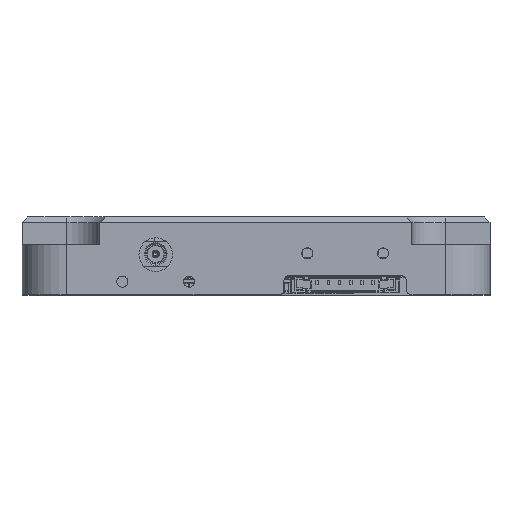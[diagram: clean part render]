
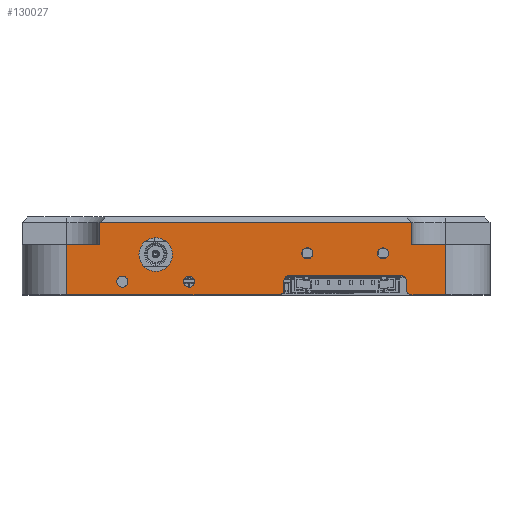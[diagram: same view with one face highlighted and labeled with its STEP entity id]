
A CAD part, front view. The second image highlights one B-rep face of the part: STEP entity #130027.
In plain terms, the highlighted planar face has unit normal (0, -1, 0) as drawn and (0, 0, 1) by its records, which use the part's own axes.
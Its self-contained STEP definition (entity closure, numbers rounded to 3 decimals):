
#13246=LINE('',#193041,#25460);
#13271=LINE('',#193101,#25485);
#13272=LINE('',#193117,#25486);
#13273=LINE('',#193120,#25487);
#13274=LINE('',#193122,#25488);
#13275=LINE('',#193124,#25489);
#13276=LINE('',#193125,#25490);
#13277=LINE('',#193126,#25491);
#13278=LINE('',#193127,#25492);
#13279=LINE('',#193128,#25493);
#13280=LINE('',#193129,#25494);
#13281=LINE('',#193130,#25495);
#25460=VECTOR('',#161294,1000.);
#25485=VECTOR('',#161341,1000.);
#25486=VECTOR('',#161358,1000.);
#25487=VECTOR('',#161359,1000.);
#25488=VECTOR('',#161360,1000.);
#25489=VECTOR('',#161361,1000.);
#25490=VECTOR('',#161362,1000.);
#25491=VECTOR('',#161363,1000.);
#25492=VECTOR('',#161364,1000.);
#25493=VECTOR('',#161365,1000.);
#25494=VECTOR('',#161366,1000.);
#25495=VECTOR('',#161367,1000.);
#52896=ORIENTED_EDGE('',*,*,#67355,.F.);
#52897=ORIENTED_EDGE('',*,*,#67356,.F.);
#52898=ORIENTED_EDGE('',*,*,#67357,.F.);
#52899=ORIENTED_EDGE('',*,*,#67358,.F.);
#52900=ORIENTED_EDGE('',*,*,#67359,.F.);
#52901=ORIENTED_EDGE('',*,*,#67360,.T.);
#52902=ORIENTED_EDGE('',*,*,#67361,.T.);
#52903=ORIENTED_EDGE('',*,*,#67362,.F.);
#52904=ORIENTED_EDGE('',*,*,#67363,.F.);
#52905=ORIENTED_EDGE('',*,*,#67352,.T.);
#52906=ORIENTED_EDGE('',*,*,#67364,.T.);
#52907=ORIENTED_EDGE('',*,*,#67320,.T.);
#52908=ORIENTED_EDGE('',*,*,#67365,.F.);
#52909=ORIENTED_EDGE('',*,*,#67310,.F.);
#52910=ORIENTED_EDGE('',*,*,#67366,.F.);
#52911=ORIENTED_EDGE('',*,*,#67308,.F.);
#52912=ORIENTED_EDGE('',*,*,#67367,.T.);
#52913=ORIENTED_EDGE('',*,*,#67314,.T.);
#52914=ORIENTED_EDGE('',*,*,#67368,.T.);
#52915=ORIENTED_EDGE('',*,*,#67322,.F.);
#52916=ORIENTED_EDGE('',*,*,#67369,.F.);
#67308=EDGE_CURVE('',#76565,#76563,#78366,.F.);
#67310=EDGE_CURVE('',#76566,#76568,#78367,.F.);
#67314=EDGE_CURVE('',#76572,#76570,#78369,.F.);
#67320=EDGE_CURVE('',#76575,#76577,#78372,.F.);
#67322=EDGE_CURVE('',#76578,#76580,#13246,.T.);
#67352=EDGE_CURVE('',#76604,#76605,#13271,.T.);
#67355=EDGE_CURVE('',#76606,#76606,#78381,.T.);
#67356=EDGE_CURVE('',#76607,#76607,#78382,.T.);
#67357=EDGE_CURVE('',#76608,#76608,#78383,.T.);
#67358=EDGE_CURVE('',#76609,#76609,#78384,.T.);
#67359=EDGE_CURVE('',#76610,#76610,#78385,.T.);
#67360=EDGE_CURVE('',#76611,#76612,#13272,.T.);
#67361=EDGE_CURVE('',#76612,#76613,#13273,.T.);
#67362=EDGE_CURVE('',#76614,#76613,#13274,.T.);
#67363=EDGE_CURVE('',#76604,#76614,#13275,.T.);
#67364=EDGE_CURVE('',#76605,#76575,#13276,.T.);
#67365=EDGE_CURVE('',#76568,#76577,#13277,.T.);
#67366=EDGE_CURVE('',#76563,#76566,#13278,.T.);
#67367=EDGE_CURVE('',#76565,#76572,#13279,.T.);
#67368=EDGE_CURVE('',#76570,#76580,#13280,.T.);
#67369=EDGE_CURVE('',#76611,#76578,#13281,.T.);
#76563=VERTEX_POINT('',#193004);
#76565=VERTEX_POINT('',#193008);
#76566=VERTEX_POINT('',#193012);
#76568=VERTEX_POINT('',#193015);
#76570=VERTEX_POINT('',#193021);
#76572=VERTEX_POINT('',#193024);
#76575=VERTEX_POINT('',#193031);
#76577=VERTEX_POINT('',#193035);
#76578=VERTEX_POINT('',#193039);
#76580=VERTEX_POINT('',#193042);
#76604=VERTEX_POINT('',#193102);
#76605=VERTEX_POINT('',#193103);
#76606=VERTEX_POINT('',#193108);
#76607=VERTEX_POINT('',#193110);
#76608=VERTEX_POINT('',#193112);
#76609=VERTEX_POINT('',#193114);
#76610=VERTEX_POINT('',#193116);
#76611=VERTEX_POINT('',#193118);
#76612=VERTEX_POINT('',#193119);
#76613=VERTEX_POINT('',#193121);
#76614=VERTEX_POINT('',#193123);
#78366=CIRCLE('',#136516,0.5);
#78367=CIRCLE('',#136518,0.5);
#78369=CIRCLE('',#136521,0.5);
#78372=CIRCLE('',#136525,0.5);
#78381=CIRCLE('',#136542,0.5);
#78382=CIRCLE('',#136543,0.5);
#78383=CIRCLE('',#136544,0.5);
#78384=CIRCLE('',#136545,0.5);
#78385=CIRCLE('',#136546,1.5);
#83295=EDGE_LOOP('',(#52896));
#83296=EDGE_LOOP('',(#52897));
#83297=EDGE_LOOP('',(#52898));
#83298=EDGE_LOOP('',(#52899));
#83299=EDGE_LOOP('',(#52900));
#83300=EDGE_LOOP('',(#52901,#52902,#52903,#52904,#52905,#52906,#52907,#52908,
#52909,#52910,#52911,#52912,#52913,#52914,#52915,#52916));
#88275=FACE_BOUND('',#83295,.T.);
#88276=FACE_BOUND('',#83296,.T.);
#88277=FACE_BOUND('',#83297,.T.);
#88278=FACE_BOUND('',#83298,.T.);
#88279=FACE_BOUND('',#83299,.T.);
#88280=FACE_BOUND('',#83300,.T.);
#92306=PLANE('',#136541);
#130027=ADVANCED_FACE('',(#88275,#88276,#88277,#88278,#88279,#88280),#92306,
 .F.);
#136516=AXIS2_PLACEMENT_3D('',#193009,#161264,#161265);
#136518=AXIS2_PLACEMENT_3D('',#193014,#161269,#161270);
#136521=AXIS2_PLACEMENT_3D('',#193023,#161277,#161278);
#136525=AXIS2_PLACEMENT_3D('',#193036,#161288,#161289);
#136541=AXIS2_PLACEMENT_3D('',#193106,#161346,#161347);
#136542=AXIS2_PLACEMENT_3D('',#193107,#161348,#161349);
#136543=AXIS2_PLACEMENT_3D('',#193109,#161350,#161351);
#136544=AXIS2_PLACEMENT_3D('',#193111,#161352,#161353);
#136545=AXIS2_PLACEMENT_3D('',#193113,#161354,#161355);
#136546=AXIS2_PLACEMENT_3D('',#193115,#161356,#161357);
#161264=DIRECTION('',(0.,0.,-1.));
#161265=DIRECTION('',(-1.,0.,0.));
#161269=DIRECTION('',(0.,0.,-1.));
#161270=DIRECTION('',(-1.,0.,0.));
#161277=DIRECTION('',(0.,0.,-1.));
#161278=DIRECTION('',(-1.,0.,0.));
#161288=DIRECTION('',(0.,0.,-1.));
#161289=DIRECTION('',(-1.,0.,0.));
#161294=DIRECTION('',(0.,-1.,0.));
#161341=DIRECTION('',(0.,-1.,0.));
#161346=DIRECTION('',(0.,0.,-1.));
#161347=DIRECTION('',(-1.,0.,0.));
#161348=DIRECTION('',(0.,0.,1.));
#161349=DIRECTION('',(1.,0.,0.));
#161350=DIRECTION('',(0.,0.,1.));
#161351=DIRECTION('',(1.,0.,0.));
#161352=DIRECTION('',(0.,0.,1.));
#161353=DIRECTION('',(1.,0.,0.));
#161354=DIRECTION('',(0.,0.,1.));
#161355=DIRECTION('',(1.,0.,0.));
#161356=DIRECTION('',(0.,0.,1.));
#161357=DIRECTION('',(1.,0.,0.));
#161358=DIRECTION('',(0.,1.,0.));
#161359=DIRECTION('',(-1.,0.,0.));
#161360=DIRECTION('',(0.,1.,0.));
#161361=DIRECTION('',(1.,0.,0.));
#161362=DIRECTION('',(1.,0.,0.));
#161363=DIRECTION('',(0.,-1.,0.));
#161364=DIRECTION('',(-1.,0.,0.));
#161365=DIRECTION('',(0.,-1.,0.));
#161366=DIRECTION('',(1.,0.,0.));
#161367=DIRECTION('',(1.,0.,0.));
#193004=CARTESIAN_POINT('',(13.,1.74,33.5));
#193008=CARTESIAN_POINT('',(13.5,1.24,33.5));
#193009=CARTESIAN_POINT('',(13.,1.24,33.5));
#193012=CARTESIAN_POINT('',(3.,1.74,33.5));
#193014=CARTESIAN_POINT('',(3.,1.24,33.5));
#193015=CARTESIAN_POINT('',(2.5,1.24,33.5));
#193021=CARTESIAN_POINT('',(14.,0.,33.5));
#193023=CARTESIAN_POINT('',(14.,0.5,33.5));
#193024=CARTESIAN_POINT('',(13.5,0.5,33.5));
#193031=CARTESIAN_POINT('',(2.,0.,33.5));
#193035=CARTESIAN_POINT('',(2.5,0.5,33.5));
#193036=CARTESIAN_POINT('',(2.,0.5,33.5));
#193039=CARTESIAN_POINT('',(17.,4.5,33.5));
#193041=CARTESIAN_POINT('',(17.,7.,33.5));
#193042=CARTESIAN_POINT('',(17.,0.,33.5));
#193101=CARTESIAN_POINT('',(-17.,7.,33.5));
#193102=CARTESIAN_POINT('',(-17.,4.5,33.5));
#193103=CARTESIAN_POINT('',(-17.,0.,33.5));
#193106=CARTESIAN_POINT('',(-17.,7.,33.5));
#193107=CARTESIAN_POINT('',(11.4,3.74,33.5));
#193108=CARTESIAN_POINT('',(11.9,3.74,33.5));
#193109=CARTESIAN_POINT('',(4.6,3.74,33.5));
#193110=CARTESIAN_POINT('',(5.1,3.74,33.5));
#193111=CARTESIAN_POINT('',(-6.,1.2,33.5));
#193112=CARTESIAN_POINT('',(-5.5,1.2,33.5));
#193113=CARTESIAN_POINT('',(-12.,1.2,33.5));
#193114=CARTESIAN_POINT('',(-11.5,1.2,33.5));
#193115=CARTESIAN_POINT('',(-9.,3.63,33.5));
#193116=CARTESIAN_POINT('',(-7.5,3.63,33.5));
#193117=CARTESIAN_POINT('',(14.,4.5,33.5));
#193118=CARTESIAN_POINT('',(14.,4.5,33.5));
#193119=CARTESIAN_POINT('',(14.,6.5,33.5));
#193120=CARTESIAN_POINT('',(-17.,6.5,33.5));
#193121=CARTESIAN_POINT('',(-14.,6.5,33.5));
#193122=CARTESIAN_POINT('',(-14.,4.5,33.5));
#193123=CARTESIAN_POINT('',(-14.,4.5,33.5));
#193124=CARTESIAN_POINT('',(-17.,4.5,33.5));
#193125=CARTESIAN_POINT('',(-17.,0.,33.5));
#193126=CARTESIAN_POINT('',(2.5,1.74,33.5));
#193127=CARTESIAN_POINT('',(2.5,1.74,33.5));
#193128=CARTESIAN_POINT('',(13.5,1.74,33.5));
#193129=CARTESIAN_POINT('',(-17.,0.,33.5));
#193130=CARTESIAN_POINT('',(14.,4.5,33.5));
